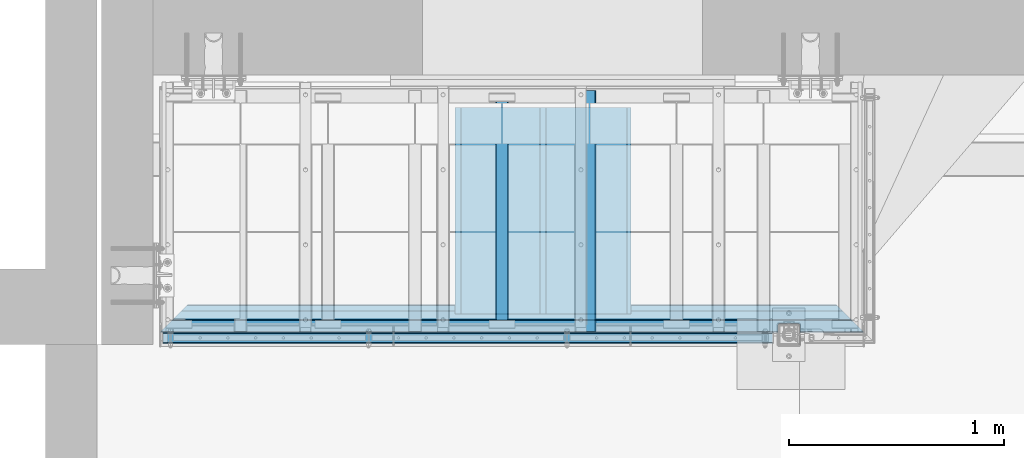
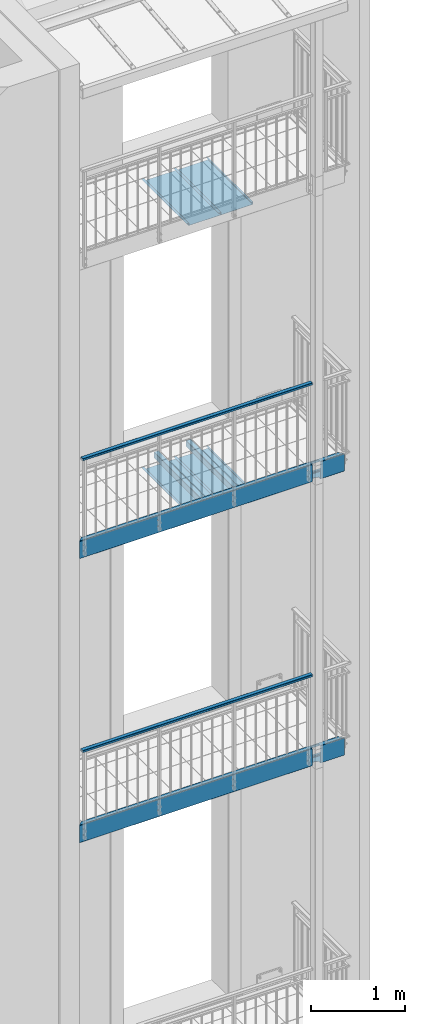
# One storey, part 40 of 162: 10 beams, 32 openings.
"""IFC2X3 building model written with IfcOpenShell, lengths in millimetres."""

from ifc_helpers import new_model, entity, si_unit, converted_unit, point, frame, frame_2d, origin, origin_with_axes, origin_2d, place, context, project, spatial, polyline, circle_curve, line_curve, trimmed, segment, composite_curve, hollow_rectangle, circle, outline, extrude, clip, halfspace, material, element, save


model = new_model("IFC2X3")

# Units and contexts
model_context = context("Model", 3, precision=1e-09, world=origin_with_axes())
ifc_project = project(units=[si_unit("LENGTHUNIT", "METRE", prefix="MILLI"), si_unit("AREAUNIT", "SQUARE_METRE"), si_unit("VOLUMEUNIT", "CUBIC_METRE"), converted_unit("PLANEANGLEUNIT", "DEGREE", entity("IfcPlaneAngleMeasure", 0.01745329), si_unit("PLANEANGLEUNIT", "RADIAN"), dimensions=[0, 0, 0, 0, 0, 0, 0])], contexts=[model_context])

# Site, building, storey
site_placement = place(None, origin_with_axes())
site = spatial("IfcSite", under=ifc_project, at=site_placement, Name="Hermannstra?e 1a, 60318 Frankfurt", CompositionType="ELEMENT")
building_placement = place(site_placement, origin_with_axes())
building = spatial("IfcBuilding", under=site, at=building_placement, Name="Struktur 1", CompositionType="ELEMENT")
storey_placement = place(building_placement, origin_with_axes())
storey = spatial("IfcBuildingStorey", under=building, at=storey_placement, Name="Default Storey", CompositionType="ELEMENT", Elevation=0.0)

# Beam, openings
ifc_material_1 = material(Name="S355JR")
beam_1_placement = place(None, frame((2176.002127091, 1605.609373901, 7665.0), z_axis=(1.0, 0.0, 0.0), x_axis=(0.0, 1.0, 0.0)))
beam_1 = element("IfcBeam", 1, at=beam_1_placement, inside=storey, material=ifc_material_1, Name="-", ObjectType="-", context=model_context, shape_type="Clipping", body=[
    clip(clip(extrude(outline(composite_curve([segment(trimmed(circle_curve(frame_2d((57.999999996, -107.999999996), x_axis=(1.0, 0.0)), 7.000000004), [point((58.0, -115.0))], [point((65.0, -108.0))], True, "CARTESIAN"), True, "CONTINUOUS"), segment(trimmed(line_curve((65.0, -108.0), (0.0, 1.0), 31.0), [point((65.0, -108.0))], [point((65.0, -77.0))], True, "CARTESIAN"), True, "CONTINUOUS"), segment(trimmed(circle_curve(frame_2d((57.999999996, -77.000000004), x_axis=(1.0, 0.0)), 7.000000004), [point((65.0, -77.0))], [point((58.0, -70.0))], True, "CARTESIAN"), True, "CONTINUOUS"), segment(trimmed(line_curve((58.0, -70.0), (-1.0, 0.0), 23.0), [point((58.0, -70.0))], [point((35.0, -70.0))], True, "CARTESIAN"), True, "CONTINUOUS"), segment(trimmed(line_curve((35.0, -70.0), (0.0, -1.0), 4.0), [point((35.0, -70.0))], [point((35.0, -74.0))], True, "CARTESIAN"), True, "CONTINUOUS"), segment(trimmed(line_curve((35.0, -74.0), (1.0, 0.0), 23.0), [point((35.0, -74.0))], [point((58.0, -74.0))], True, "CARTESIAN"), True, "CONTINUOUS"), segment(trimmed(circle_curve(frame_2d((57.999999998, -77.000000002), x_axis=(-1.0, 0.0)), 3.000000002), [point((58.0, -74.0))], [point((61.0, -77.0))], False, "CARTESIAN"), True, "CONTINUOUS"), segment(trimmed(line_curve((61.0, -77.0), (0.0, -1.0), 31.0), [point((61.0, -77.0))], [point((61.0, -108.0))], True, "CARTESIAN"), True, "CONTINUOUS"), segment(trimmed(circle_curve(frame_2d((57.999999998, -107.999999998), x_axis=(-1.0, 0.0)), 3.000000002), [point((61.0, -108.0))], [point((58.0, -111.0))], False, "CARTESIAN"), True, "CONTINUOUS"), segment(trimmed(line_curve((58.0, -111.0), (-1.0, 0.0), 116.0), [point((58.0, -111.0))], [point((-58.0, -111.0))], True, "CARTESIAN"), True, "CONTINUOUS"), segment(trimmed(circle_curve(frame_2d((-57.999999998, -107.999999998), x_axis=(-1.0, 0.0)), 3.000000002), [point((-58.0, -111.0))], [point((-61.0, -108.0))], False, "CARTESIAN"), True, "CONTINUOUS"), segment(trimmed(line_curve((-61.0, -108.0), (0.0, 1.0), 216.0), [point((-61.0, -108.0))], [point((-61.0, 108.0))], True, "CARTESIAN"), True, "CONTINUOUS"), segment(trimmed(circle_curve(frame_2d((-57.999999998, 107.999999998), x_axis=(-1.0, 0.0)), 3.000000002), [point((-61.0, 108.0))], [point((-58.0, 111.0))], False, "CARTESIAN"), True, "CONTINUOUS"), segment(trimmed(line_curve((-58.0, 111.0), (1.0, 0.0), 46.0), [point((-58.0, 111.0))], [point((-12.0, 111.0))], True, "CARTESIAN"), True, "CONTINUOUS"), segment(trimmed(circle_curve(frame_2d((-12.000000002, 107.999999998), x_axis=(-1.0, 0.0)), 3.000000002), [point((-12.0, 111.0))], [point((-9.0, 108.0))], False, "CARTESIAN"), True, "CONTINUOUS"), segment(trimmed(line_curve((-9.0, 108.0), (0.0, -1.0), 33.0), [point((-9.0, 108.0))], [point((-9.0, 75.0))], True, "CARTESIAN"), True, "CONTINUOUS"), segment(trimmed(line_curve((-9.0, 75.0), (1.0, 0.0), 4.0), [point((-9.0, 75.0))], [point((-5.0, 75.0))], True, "CARTESIAN"), True, "CONTINUOUS"), segment(trimmed(line_curve((-5.0, 75.0), (0.0, 1.0), 33.0), [point((-5.0, 75.0))], [point((-5.0, 108.0))], True, "CARTESIAN"), True, "CONTINUOUS"), segment(trimmed(circle_curve(frame_2d((-12.000000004, 107.999999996), x_axis=(1.0, 0.0)), 7.000000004), [point((-5.0, 108.0))], [point((-12.0, 115.0))], True, "CARTESIAN"), True, "CONTINUOUS"), segment(trimmed(line_curve((-12.0, 115.0), (-1.0, 0.0), 46.0), [point((-12.0, 115.0))], [point((-58.0, 115.0))], True, "CARTESIAN"), True, "CONTINUOUS"), segment(trimmed(circle_curve(frame_2d((-57.999999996, 107.999999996), x_axis=(1.0, 0.0)), 7.000000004), [point((-58.0, 115.0))], [point((-65.0, 108.0))], True, "CARTESIAN"), True, "CONTINUOUS"), segment(trimmed(line_curve((-65.0, 108.0), (0.0, -1.0), 216.0), [point((-65.0, 108.0))], [point((-65.0, -108.0))], True, "CARTESIAN"), True, "CONTINUOUS"), segment(trimmed(circle_curve(frame_2d((-57.999999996, -107.999999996), x_axis=(1.0, 0.0)), 7.000000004), [point((-65.0, -108.0))], [point((-58.0, -115.0))], True, "CARTESIAN"), True, "CONTINUOUS"), segment(trimmed(line_curve((-58.0, -115.0), (1.0, 0.0), 116.0), [point((-58.0, -115.0))], [point((58.0, -115.0))], True, "CARTESIAN"), True, "CONTINUOUS")], self_intersect=False)), origin(), (0.0, 0.0, 1.0), 4024.614475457), halfspace(frame((-2111.960076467, -7665.0, -1669.651424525), z_axis=(-0.707106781, 0.0, 0.707106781), x_axis=(0.707106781, 0.0, 0.707106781)), True)), halfspace(frame((2076.349288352, -7665.0, 1505.956535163), z_axis=(-0.707106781, 0.0, -0.707106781), x_axis=(-0.707106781, 0.0, 0.707106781)), True)),
])
opening_1_placement = place(beam_1_placement, frame((-75.214581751, 215.1, 3643.306237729), z_axis=(0.0, 1.0, 0.0), x_axis=(0.0, 0.0, 1.0)))
element("IfcOpeningElement", 2, at=opening_1_placement, cuts=beam_1, ObjectType="Opening", context=model_context, shape_type="SweptSolid", body=[
    extrude(outline(polyline([(0.0, 0.0), (13.514993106, 0.0), (13.514993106, 17.024041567), (0.0, 17.024041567), (0.0, 0.0)])), origin(), (0.0, 0.0, -1.0), 430.2),
])
opening_2_placement = place(beam_1_placement, frame((-119.001, 215.1, 3246.306237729), z_axis=(0.0, 1.0, 0.0), x_axis=(-0.707106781, 0.0, 0.707106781)))
element("IfcOpeningElement", 3, at=opening_2_placement, cuts=beam_1, ObjectType="Opening", context=model_context, shape_type="SweptSolid", body=[
    extrude(outline(composite_curve([segment(trimmed(circle_curve(frame_2d((4.949747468, 4.949747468), x_axis=(1.0, 0.0)), 7.0), [point((0.0, 0.0))], [point((9.899494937, 0.0))], True, "CARTESIAN"), True, "CONTINUOUS"), segment(trimmed(line_curve((9.899494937, 0.0), (0.707106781, 0.707106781), 88.0), [point((9.899494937, 0.0))], [point((72.124891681, 62.225396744))], True, "CARTESIAN"), True, "CONTINUOUS"), segment(trimmed(circle_curve(frame_2d((67.175144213, 67.175144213), x_axis=(1.0, 0.0)), 7.0), [point((72.124891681, 62.225396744))], [point((72.124891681, 72.124891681))], True, "CARTESIAN"), True, "CONTINUOUS"), segment(trimmed(line_curve((72.124891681, 72.124891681), (-0.707106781, 0.707106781), 88.002), [point((72.124891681, 72.124891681))], [point((9.898080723, 134.351702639))], True, "CARTESIAN"), True, "CONTINUOUS"), segment(trimmed(circle_curve(frame_2d((4.948333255, 129.401955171), x_axis=(1.0, 0.0)), 7.0), [point((9.898080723, 134.351702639))], [point((-0.001414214, 134.351702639))], True, "CARTESIAN"), True, "CONTINUOUS"), segment(trimmed(line_curve((-0.001414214, 134.351702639), (-0.707106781, -0.707106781), 88.0), [point((-0.001414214, 134.351702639))], [point((-62.226810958, 72.126305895))], True, "CARTESIAN"), True, "CONTINUOUS"), segment(trimmed(circle_curve(frame_2d((-57.27706349, 67.176558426), x_axis=(1.0, 0.0)), 7.0), [point((-62.226810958, 72.126305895))], [point((-62.226810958, 62.226810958))], True, "CARTESIAN"), True, "CONTINUOUS"), segment(trimmed(line_curve((-62.226810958, 62.226810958), (0.707106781, -0.707106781), 88.002), [point((-62.226810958, 62.226810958))], [point((0.0, 0.0))], True, "CARTESIAN"), True, "CONTINUOUS")], self_intersect=False)), origin(), (0.0, 0.0, -1.0), 430.2),
])
opening_3_placement = place(beam_1_placement, frame((-66.702560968, 215.1, 374.550741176), z_axis=(0.0, -1.0, 0.0), x_axis=(0.0, 0.0, -1.0)))
element("IfcOpeningElement", 4, at=opening_3_placement, cuts=beam_1, ObjectType="Opening", context=model_context, shape_type="SweptSolid", body=[
    extrude(outline(polyline([(-6.757496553, -8.512020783), (6.757496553, -8.512020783), (6.757496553, 8.512020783), (-6.757496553, 8.512020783), (-6.757496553, -8.512020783)])), origin(), (0.0, 0.0, 1.0), 430.2),
])
opening_4_placement = place(beam_1_placement, frame((-13.0, -98.5, 3297.305553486), z_axis=(-1.0, 0.0, 0.0), x_axis=(0.0, 0.0, 1.0)))
element("IfcOpeningElement", 5, at=opening_4_placement, cuts=beam_1, ObjectType="Opening", context=model_context, shape_type="SweptSolid", body=[
    extrude(outline(composite_curve([segment(trimmed(circle_curve(frame_2d((-20.001, -29.501), x_axis=(1.0, 0.0)), 6.0), [point((-26.001, -29.501))], [point((-20.001, -35.501))], True, "CARTESIAN"), True, "CONTINUOUS"), segment(trimmed(line_curve((-20.001, -35.501), (1.0, 0.0), 40.002), [point((-20.001, -35.501))], [point((20.001, -35.501))], True, "CARTESIAN"), True, "CONTINUOUS"), segment(trimmed(circle_curve(frame_2d((20.001, -29.501), x_axis=(1.0, 0.0)), 6.0), [point((20.001, -35.501))], [point((26.001, -29.501))], True, "CARTESIAN"), True, "CONTINUOUS"), segment(trimmed(line_curve((26.001, -29.501), (0.0, 1.0), 59.002), [point((26.001, -29.501))], [point((26.001, 29.501))], True, "CARTESIAN"), True, "CONTINUOUS"), segment(trimmed(circle_curve(frame_2d((20.001, 29.501), x_axis=(1.0, 0.0)), 6.0), [point((26.001, 29.501))], [point((20.001, 35.501))], True, "CARTESIAN"), True, "CONTINUOUS"), segment(trimmed(line_curve((20.001, 35.501), (-1.0, 0.0), 40.002), [point((20.001, 35.501))], [point((-20.001, 35.501))], True, "CARTESIAN"), True, "CONTINUOUS"), segment(trimmed(circle_curve(frame_2d((-20.001, 29.501), x_axis=(1.0, 0.0)), 6.0), [point((-20.001, 35.501))], [point((-26.001, 29.501))], True, "CARTESIAN"), True, "CONTINUOUS"), segment(trimmed(line_curve((-26.001, 29.501), (0.0, -1.0), 59.002), [point((-26.001, 29.501))], [point((-26.001, -29.501))], True, "CARTESIAN"), True, "CONTINUOUS")], self_intersect=False)), origin(), (0.0, 0.0, 1.0), 152.1),
])
opening_5_placement = place(beam_1_placement, frame((-65.5, 55.0, 420.306237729), z_axis=(-1.0, 0.0, 0.0), x_axis=(0.0, -1.0, 0.0)))
element("IfcOpeningElement", 6, at=opening_5_placement, cuts=beam_1, ObjectType="Opening", context=model_context, shape_type="SweptSolid", body=[
    extrude(circle(Radius=7.001, at=frame_2d((0.0, 7.001), x_axis=(1.0, 0.0))), origin(), (0.0, 0.0, -1.0), 5.0),
])
opening_6_placement = place(beam_1_placement, frame((-65.5, -25.0, 420.306237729), z_axis=(-1.0, 0.0, 0.0), x_axis=(0.0, -1.0, 0.0)))
element("IfcOpeningElement", 7, at=opening_6_placement, cuts=beam_1, ObjectType="Opening", context=model_context, shape_type="SweptSolid", body=[
    extrude(circle(Radius=7.001, at=frame_2d((0.0, 7.001), x_axis=(1.0, 0.0))), origin(), (0.0, 0.0, -1.0), 5.0),
])
opening_7_placement = place(beam_1_placement, frame((-65.5, 55.0, 3180.306237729), z_axis=(-1.0, 0.0, 0.0), x_axis=(0.0, -1.0, 0.0)))
element("IfcOpeningElement", 8, at=opening_7_placement, cuts=beam_1, ObjectType="Opening", context=model_context, shape_type="SweptSolid", body=[
    extrude(circle(Radius=7.001, at=frame_2d((0.0, 7.001), x_axis=(1.0, 0.0))), origin(), (0.0, 0.0, -1.0), 5.0),
])
opening_8_placement = place(beam_1_placement, frame((-65.5, -25.0, 3180.306237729), z_axis=(-1.0, 0.0, 0.0), x_axis=(0.0, -1.0, 0.0)))
element("IfcOpeningElement", 9, at=opening_8_placement, cuts=beam_1, ObjectType="Opening", context=model_context, shape_type="SweptSolid", body=[
    extrude(circle(Radius=7.001, at=frame_2d((0.0, 7.001), x_axis=(1.0, 0.0))), origin(), (0.0, 0.0, -1.0), 5.0),
])
opening_9_placement = place(beam_1_placement, frame((-65.5, 55.0, 2260.306237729), z_axis=(-1.0, 0.0, 0.0), x_axis=(0.0, -1.0, 0.0)))
element("IfcOpeningElement", 10, at=opening_9_placement, cuts=beam_1, ObjectType="Opening", context=model_context, shape_type="SweptSolid", body=[
    extrude(circle(Radius=7.001, at=frame_2d((0.0, 7.001), x_axis=(1.0, 0.0))), origin(), (0.0, 0.0, -1.0), 5.0),
])
opening_10_placement = place(beam_1_placement, frame((-65.5, -25.0, 2260.306237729), z_axis=(-1.0, 0.0, 0.0), x_axis=(0.0, -1.0, 0.0)))
element("IfcOpeningElement", 11, at=opening_10_placement, cuts=beam_1, ObjectType="Opening", context=model_context, shape_type="SweptSolid", body=[
    extrude(circle(Radius=7.001, at=frame_2d((0.0, 7.001), x_axis=(1.0, 0.0))), origin(), (0.0, 0.0, -1.0), 5.0),
])
opening_11_placement = place(beam_1_placement, frame((-65.5, 55.0, 1340.306237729), z_axis=(-1.0, 0.0, 0.0), x_axis=(0.0, -1.0, 0.0)))
element("IfcOpeningElement", 12, at=opening_11_placement, cuts=beam_1, ObjectType="Opening", context=model_context, shape_type="SweptSolid", body=[
    extrude(circle(Radius=7.001, at=frame_2d((0.0, 7.001), x_axis=(1.0, 0.0))), origin(), (0.0, 0.0, -1.0), 5.0),
])
opening_12_placement = place(beam_1_placement, frame((-65.5, -25.0, 1340.306237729), z_axis=(-1.0, 0.0, 0.0), x_axis=(0.0, -1.0, 0.0)))
element("IfcOpeningElement", 13, at=opening_12_placement, cuts=beam_1, ObjectType="Opening", context=model_context, shape_type="SweptSolid", body=[
    extrude(circle(Radius=7.001, at=frame_2d((0.0, 7.001), x_axis=(1.0, 0.0))), origin(), (0.0, 0.0, -1.0), 5.0),
])

ifc_material_2 = material(Name="S235JR")
beam_2_placement = place(None, frame((2568.31036482, 1515.609373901, 8765.0), z_axis=(-1.0, 0.0, 0.0), x_axis=(0.0, 0.0, -1.0)))
beam_2 = element("IfcBeam", 14, at=beam_2_placement, inside=storey, material=ifc_material_2, Name="-", ObjectType="-", context=model_context, shape_type="SweptSolid", body=[
    extrude(hollow_rectangle(XDim=30.0, YDim=50.0, WallThickness=3.0, InnerFilletRadius=3.0, OuterFilletRadius=6.0, at=origin_2d()), origin(), (0.0, 0.0, -1.0), 2829.999),
])
opening_13_placement = place(beam_2_placement, frame((11.5, 0.0, -29.998), z_axis=(-1.0, 0.0, 0.0), x_axis=(0.0, -1.0, 0.0)))
element("IfcOpeningElement", 15, at=opening_13_placement, cuts=beam_2, ObjectType="Opening", context=model_context, shape_type="SweptSolid", body=[
    extrude(circle(Radius=5.001, at=frame_2d((0.0, -5.001), x_axis=(1.0, 0.0))), origin(), (0.0, 0.0, -1.0), 4.0),
])
opening_14_placement = place(beam_2_placement, frame((11.5, 0.0, -949.998), z_axis=(-1.0, 0.0, 0.0), x_axis=(0.0, -1.0, 0.0)))
element("IfcOpeningElement", 16, at=opening_14_placement, cuts=beam_2, ObjectType="Opening", context=model_context, shape_type="SweptSolid", body=[
    extrude(circle(Radius=5.001, at=frame_2d((0.0, -5.001), x_axis=(1.0, 0.0))), origin(), (0.0, 0.0, -1.0), 4.0),
])
opening_15_placement = place(beam_2_placement, frame((11.5, 0.0, -1869.998), z_axis=(-1.0, 0.0, 0.0), x_axis=(0.0, -1.0, 0.0)))
element("IfcOpeningElement", 17, at=opening_15_placement, cuts=beam_2, ObjectType="Opening", context=model_context, shape_type="SweptSolid", body=[
    extrude(circle(Radius=5.001, at=frame_2d((0.0, -5.001), x_axis=(1.0, 0.0))), origin(), (0.0, 0.0, -1.0), 4.0),
])
opening_16_placement = place(beam_2_placement, frame((11.5, 0.0, -2789.998), z_axis=(-1.0, 0.0, 0.0), x_axis=(0.0, -1.0, 0.0)))
element("IfcOpeningElement", 18, at=opening_16_placement, cuts=beam_2, ObjectType="Opening", context=model_context, shape_type="SweptSolid", body=[
    extrude(circle(Radius=5.001, at=frame_2d((0.0, -5.001), x_axis=(1.0, 0.0))), origin(), (0.0, 0.0, -1.0), 4.0),
])

beam_3_placement = place(None, frame((2568.31036482, 1515.609373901, 12564.999), z_axis=(-1.0, 0.0, 0.0), x_axis=(0.0, 0.0, -1.0)))
beam_3 = element("IfcBeam", 19, at=beam_3_placement, inside=storey, material=ifc_material_2, Name="-", ObjectType="-", context=model_context, shape_type="SweptSolid", body=[
    extrude(hollow_rectangle(XDim=30.0, YDim=50.0, WallThickness=3.0, InnerFilletRadius=3.0, OuterFilletRadius=6.0, at=origin_2d()), origin(), (0.0, 0.0, -1.0), 2829.999),
])
opening_17_placement = place(beam_3_placement, frame((11.5, 0.0, -29.998), z_axis=(-1.0, 0.0, 0.0), x_axis=(0.0, -1.0, 0.0)))
element("IfcOpeningElement", 20, at=opening_17_placement, cuts=beam_3, ObjectType="Opening", context=model_context, shape_type="SweptSolid", body=[
    extrude(circle(Radius=5.001, at=frame_2d((0.0, -5.001), x_axis=(1.0, 0.0))), origin(), (0.0, 0.0, -1.0), 4.0),
])
opening_18_placement = place(beam_3_placement, frame((11.5, 0.0, -949.998), z_axis=(-1.0, 0.0, 0.0), x_axis=(0.0, -1.0, 0.0)))
element("IfcOpeningElement", 21, at=opening_18_placement, cuts=beam_3, ObjectType="Opening", context=model_context, shape_type="SweptSolid", body=[
    extrude(circle(Radius=5.001, at=frame_2d((0.0, -5.001), x_axis=(1.0, 0.0))), origin(), (0.0, 0.0, -1.0), 4.0),
])
opening_19_placement = place(beam_3_placement, frame((11.5, 0.0, -1869.998), z_axis=(-1.0, 0.0, 0.0), x_axis=(0.0, -1.0, 0.0)))
element("IfcOpeningElement", 22, at=opening_19_placement, cuts=beam_3, ObjectType="Opening", context=model_context, shape_type="SweptSolid", body=[
    extrude(circle(Radius=5.001, at=frame_2d((0.0, -5.001), x_axis=(1.0, 0.0))), origin(), (0.0, 0.0, -1.0), 4.0),
])
opening_20_placement = place(beam_3_placement, frame((11.5, 0.0, -2789.998), z_axis=(-1.0, 0.0, 0.0), x_axis=(0.0, -1.0, 0.0)))
element("IfcOpeningElement", 23, at=opening_20_placement, cuts=beam_3, ObjectType="Opening", context=model_context, shape_type="SweptSolid", body=[
    extrude(circle(Radius=5.001, at=frame_2d((0.0, -5.001), x_axis=(1.0, 0.0))), origin(), (0.0, 0.0, -1.0), 4.0),
])

beam_4_placement = place(None, frame((2176.002127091, 1605.609373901, 11364.999), z_axis=(1.0, 0.0, 0.0), x_axis=(0.0, 1.0, 0.0)))
beam_4 = element("IfcBeam", 24, at=beam_4_placement, inside=storey, material=ifc_material_1, Name="-", ObjectType="-", context=model_context, shape_type="Clipping", body=[
    clip(clip(extrude(outline(composite_curve([segment(trimmed(circle_curve(frame_2d((57.999999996, -107.999999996), x_axis=(1.0, 0.0)), 7.000000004), [point((58.0, -115.0))], [point((65.0, -108.0))], True, "CARTESIAN"), True, "CONTINUOUS"), segment(trimmed(line_curve((65.0, -108.0), (0.0, 1.0), 31.0), [point((65.0, -108.0))], [point((65.0, -77.0))], True, "CARTESIAN"), True, "CONTINUOUS"), segment(trimmed(circle_curve(frame_2d((57.999999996, -77.000000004), x_axis=(1.0, 0.0)), 7.000000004), [point((65.0, -77.0))], [point((58.0, -70.0))], True, "CARTESIAN"), True, "CONTINUOUS"), segment(trimmed(line_curve((58.0, -70.0), (-1.0, 0.0), 23.0), [point((58.0, -70.0))], [point((35.0, -70.0))], True, "CARTESIAN"), True, "CONTINUOUS"), segment(trimmed(line_curve((35.0, -70.0), (0.0, -1.0), 4.0), [point((35.0, -70.0))], [point((35.0, -74.0))], True, "CARTESIAN"), True, "CONTINUOUS"), segment(trimmed(line_curve((35.0, -74.0), (1.0, 0.0), 23.0), [point((35.0, -74.0))], [point((58.0, -74.0))], True, "CARTESIAN"), True, "CONTINUOUS"), segment(trimmed(circle_curve(frame_2d((57.999999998, -77.000000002), x_axis=(-1.0, 0.0)), 3.000000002), [point((58.0, -74.0))], [point((61.0, -77.0))], False, "CARTESIAN"), True, "CONTINUOUS"), segment(trimmed(line_curve((61.0, -77.0), (0.0, -1.0), 31.0), [point((61.0, -77.0))], [point((61.0, -108.0))], True, "CARTESIAN"), True, "CONTINUOUS"), segment(trimmed(circle_curve(frame_2d((57.999999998, -107.999999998), x_axis=(-1.0, 0.0)), 3.000000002), [point((61.0, -108.0))], [point((58.0, -111.0))], False, "CARTESIAN"), True, "CONTINUOUS"), segment(trimmed(line_curve((58.0, -111.0), (-1.0, 0.0), 116.0), [point((58.0, -111.0))], [point((-58.0, -111.0))], True, "CARTESIAN"), True, "CONTINUOUS"), segment(trimmed(circle_curve(frame_2d((-57.999999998, -107.999999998), x_axis=(-1.0, 0.0)), 3.000000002), [point((-58.0, -111.0))], [point((-61.0, -108.0))], False, "CARTESIAN"), True, "CONTINUOUS"), segment(trimmed(line_curve((-61.0, -108.0), (0.0, 1.0), 216.0), [point((-61.0, -108.0))], [point((-61.0, 108.0))], True, "CARTESIAN"), True, "CONTINUOUS"), segment(trimmed(circle_curve(frame_2d((-57.999999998, 107.999999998), x_axis=(-1.0, 0.0)), 3.000000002), [point((-61.0, 108.0))], [point((-58.0, 111.0))], False, "CARTESIAN"), True, "CONTINUOUS"), segment(trimmed(line_curve((-58.0, 111.0), (1.0, 0.0), 46.0), [point((-58.0, 111.0))], [point((-12.0, 111.0))], True, "CARTESIAN"), True, "CONTINUOUS"), segment(trimmed(circle_curve(frame_2d((-12.000000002, 107.999999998), x_axis=(-1.0, 0.0)), 3.000000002), [point((-12.0, 111.0))], [point((-9.0, 108.0))], False, "CARTESIAN"), True, "CONTINUOUS"), segment(trimmed(line_curve((-9.0, 108.0), (0.0, -1.0), 33.0), [point((-9.0, 108.0))], [point((-9.0, 75.0))], True, "CARTESIAN"), True, "CONTINUOUS"), segment(trimmed(line_curve((-9.0, 75.0), (1.0, 0.0), 4.0), [point((-9.0, 75.0))], [point((-5.0, 75.0))], True, "CARTESIAN"), True, "CONTINUOUS"), segment(trimmed(line_curve((-5.0, 75.0), (0.0, 1.0), 33.0), [point((-5.0, 75.0))], [point((-5.0, 108.0))], True, "CARTESIAN"), True, "CONTINUOUS"), segment(trimmed(circle_curve(frame_2d((-12.000000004, 107.999999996), x_axis=(1.0, 0.0)), 7.000000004), [point((-5.0, 108.0))], [point((-12.0, 115.0))], True, "CARTESIAN"), True, "CONTINUOUS"), segment(trimmed(line_curve((-12.0, 115.0), (-1.0, 0.0), 46.0), [point((-12.0, 115.0))], [point((-58.0, 115.0))], True, "CARTESIAN"), True, "CONTINUOUS"), segment(trimmed(circle_curve(frame_2d((-57.999999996, 107.999999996), x_axis=(1.0, 0.0)), 7.000000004), [point((-58.0, 115.0))], [point((-65.0, 108.0))], True, "CARTESIAN"), True, "CONTINUOUS"), segment(trimmed(line_curve((-65.0, 108.0), (0.0, -1.0), 216.0), [point((-65.0, 108.0))], [point((-65.0, -108.0))], True, "CARTESIAN"), True, "CONTINUOUS"), segment(trimmed(circle_curve(frame_2d((-57.999999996, -107.999999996), x_axis=(1.0, 0.0)), 7.000000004), [point((-65.0, -108.0))], [point((-58.0, -115.0))], True, "CARTESIAN"), True, "CONTINUOUS"), segment(trimmed(line_curve((-58.0, -115.0), (1.0, 0.0), 116.0), [point((-58.0, -115.0))], [point((58.0, -115.0))], True, "CARTESIAN"), True, "CONTINUOUS")], self_intersect=False)), origin(), (0.0, 0.0, 1.0), 4024.614475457), halfspace(frame((-2111.960076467, -11364.999, -1669.651424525), z_axis=(-0.707106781, 0.0, 0.707106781), x_axis=(0.707106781, 0.0, 0.707106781)), True)), halfspace(frame((2076.349288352, -11364.999, 1505.956535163), z_axis=(-0.707106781, 0.0, -0.707106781), x_axis=(-0.707106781, 0.0, 0.707106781)), True)),
])
opening_21_placement = place(beam_4_placement, frame((-75.214581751, 215.1, 3643.306237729), z_axis=(0.0, 1.0, 0.0), x_axis=(0.0, 0.0, 1.0)))
element("IfcOpeningElement", 25, at=opening_21_placement, cuts=beam_4, ObjectType="Opening", context=model_context, shape_type="SweptSolid", body=[
    extrude(outline(polyline([(0.0, 0.0), (13.514993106, 0.0), (13.514993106, 17.024041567), (0.0, 17.024041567), (0.0, 0.0)])), origin(), (0.0, 0.0, -1.0), 430.2),
])
opening_22_placement = place(beam_4_placement, frame((-119.001, 215.1, 3246.306237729), z_axis=(0.0, 1.0, 0.0), x_axis=(-0.707106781, 0.0, 0.707106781)))
element("IfcOpeningElement", 26, at=opening_22_placement, cuts=beam_4, ObjectType="Opening", context=model_context, shape_type="SweptSolid", body=[
    extrude(outline(composite_curve([segment(trimmed(circle_curve(frame_2d((4.949747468, 4.949747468), x_axis=(1.0, 0.0)), 7.0), [point((0.0, 0.0))], [point((9.899494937, 0.0))], True, "CARTESIAN"), True, "CONTINUOUS"), segment(trimmed(line_curve((9.899494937, 0.0), (0.707106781, 0.707106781), 88.0), [point((9.899494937, 0.0))], [point((72.124891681, 62.225396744))], True, "CARTESIAN"), True, "CONTINUOUS"), segment(trimmed(circle_curve(frame_2d((67.175144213, 67.175144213), x_axis=(1.0, 0.0)), 7.0), [point((72.124891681, 62.225396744))], [point((72.124891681, 72.124891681))], True, "CARTESIAN"), True, "CONTINUOUS"), segment(trimmed(line_curve((72.124891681, 72.124891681), (-0.707106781, 0.707106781), 88.002), [point((72.124891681, 72.124891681))], [point((9.898080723, 134.351702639))], True, "CARTESIAN"), True, "CONTINUOUS"), segment(trimmed(circle_curve(frame_2d((4.948333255, 129.401955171), x_axis=(1.0, 0.0)), 7.0), [point((9.898080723, 134.351702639))], [point((-0.001414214, 134.351702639))], True, "CARTESIAN"), True, "CONTINUOUS"), segment(trimmed(line_curve((-0.001414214, 134.351702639), (-0.707106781, -0.707106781), 88.0), [point((-0.001414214, 134.351702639))], [point((-62.226810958, 72.126305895))], True, "CARTESIAN"), True, "CONTINUOUS"), segment(trimmed(circle_curve(frame_2d((-57.27706349, 67.176558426), x_axis=(1.0, 0.0)), 7.0), [point((-62.226810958, 72.126305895))], [point((-62.226810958, 62.226810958))], True, "CARTESIAN"), True, "CONTINUOUS"), segment(trimmed(line_curve((-62.226810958, 62.226810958), (0.707106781, -0.707106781), 88.002), [point((-62.226810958, 62.226810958))], [point((0.0, 0.0))], True, "CARTESIAN"), True, "CONTINUOUS")], self_intersect=False)), origin(), (0.0, 0.0, -1.0), 430.2),
])
opening_23_placement = place(beam_4_placement, frame((-66.702560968, 215.1, 374.550741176), z_axis=(0.0, -1.0, 0.0), x_axis=(0.0, 0.0, -1.0)))
element("IfcOpeningElement", 27, at=opening_23_placement, cuts=beam_4, ObjectType="Opening", context=model_context, shape_type="SweptSolid", body=[
    extrude(outline(polyline([(-6.757496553, -8.512020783), (6.757496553, -8.512020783), (6.757496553, 8.512020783), (-6.757496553, 8.512020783), (-6.757496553, -8.512020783)])), origin(), (0.0, 0.0, 1.0), 430.2),
])
opening_24_placement = place(beam_4_placement, frame((-13.0, -98.5, 3297.305553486), z_axis=(-1.0, 0.0, 0.0), x_axis=(0.0, 0.0, 1.0)))
element("IfcOpeningElement", 28, at=opening_24_placement, cuts=beam_4, ObjectType="Opening", context=model_context, shape_type="SweptSolid", body=[
    extrude(outline(composite_curve([segment(trimmed(circle_curve(frame_2d((-20.001, -29.501), x_axis=(1.0, 0.0)), 6.0), [point((-26.001, -29.501))], [point((-20.001, -35.501))], True, "CARTESIAN"), True, "CONTINUOUS"), segment(trimmed(line_curve((-20.001, -35.501), (1.0, 0.0), 40.002), [point((-20.001, -35.501))], [point((20.001, -35.501))], True, "CARTESIAN"), True, "CONTINUOUS"), segment(trimmed(circle_curve(frame_2d((20.001, -29.501), x_axis=(1.0, 0.0)), 6.0), [point((20.001, -35.501))], [point((26.001, -29.501))], True, "CARTESIAN"), True, "CONTINUOUS"), segment(trimmed(line_curve((26.001, -29.501), (0.0, 1.0), 59.002), [point((26.001, -29.501))], [point((26.001, 29.501))], True, "CARTESIAN"), True, "CONTINUOUS"), segment(trimmed(circle_curve(frame_2d((20.001, 29.501), x_axis=(1.0, 0.0)), 6.0), [point((26.001, 29.501))], [point((20.001, 35.501))], True, "CARTESIAN"), True, "CONTINUOUS"), segment(trimmed(line_curve((20.001, 35.501), (-1.0, 0.0), 40.002), [point((20.001, 35.501))], [point((-20.001, 35.501))], True, "CARTESIAN"), True, "CONTINUOUS"), segment(trimmed(circle_curve(frame_2d((-20.001, 29.501), x_axis=(1.0, 0.0)), 6.0), [point((-20.001, 35.501))], [point((-26.001, 29.501))], True, "CARTESIAN"), True, "CONTINUOUS"), segment(trimmed(line_curve((-26.001, 29.501), (0.0, -1.0), 59.002), [point((-26.001, 29.501))], [point((-26.001, -29.501))], True, "CARTESIAN"), True, "CONTINUOUS")], self_intersect=False)), origin(), (0.0, 0.0, 1.0), 152.1),
])
opening_25_placement = place(beam_4_placement, frame((-65.5, 55.0, 3180.306237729), z_axis=(-1.0, 0.0, 0.0), x_axis=(0.0, -1.0, 0.0)))
element("IfcOpeningElement", 29, at=opening_25_placement, cuts=beam_4, ObjectType="Opening", context=model_context, shape_type="SweptSolid", body=[
    extrude(circle(Radius=7.001, at=frame_2d((0.0, 7.001), x_axis=(1.0, 0.0))), origin(), (0.0, 0.0, -1.0), 5.0),
])
opening_26_placement = place(beam_4_placement, frame((-65.5, -25.0, 3180.306237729), z_axis=(-1.0, 0.0, 0.0), x_axis=(0.0, -1.0, 0.0)))
element("IfcOpeningElement", 30, at=opening_26_placement, cuts=beam_4, ObjectType="Opening", context=model_context, shape_type="SweptSolid", body=[
    extrude(circle(Radius=7.001, at=frame_2d((0.0, 7.001), x_axis=(1.0, 0.0))), origin(), (0.0, 0.0, -1.0), 5.0),
])
opening_27_placement = place(beam_4_placement, frame((-65.5, 55.0, 2260.306237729), z_axis=(-1.0, 0.0, 0.0), x_axis=(0.0, -1.0, 0.0)))
element("IfcOpeningElement", 31, at=opening_27_placement, cuts=beam_4, ObjectType="Opening", context=model_context, shape_type="SweptSolid", body=[
    extrude(circle(Radius=7.001, at=frame_2d((0.0, 7.001), x_axis=(1.0, 0.0))), origin(), (0.0, 0.0, -1.0), 5.0),
])
opening_28_placement = place(beam_4_placement, frame((-65.5, -25.0, 2260.306237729), z_axis=(-1.0, 0.0, 0.0), x_axis=(0.0, -1.0, 0.0)))
element("IfcOpeningElement", 32, at=opening_28_placement, cuts=beam_4, ObjectType="Opening", context=model_context, shape_type="SweptSolid", body=[
    extrude(circle(Radius=7.001, at=frame_2d((0.0, 7.001), x_axis=(1.0, 0.0))), origin(), (0.0, 0.0, -1.0), 5.0),
])
opening_29_placement = place(beam_4_placement, frame((-65.5, 55.0, 1340.306237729), z_axis=(-1.0, 0.0, 0.0), x_axis=(0.0, -1.0, 0.0)))
element("IfcOpeningElement", 33, at=opening_29_placement, cuts=beam_4, ObjectType="Opening", context=model_context, shape_type="SweptSolid", body=[
    extrude(circle(Radius=7.001, at=frame_2d((0.0, 7.001), x_axis=(1.0, 0.0))), origin(), (0.0, 0.0, -1.0), 5.0),
])
opening_30_placement = place(beam_4_placement, frame((-65.5, -25.0, 1340.306237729), z_axis=(-1.0, 0.0, 0.0), x_axis=(0.0, -1.0, 0.0)))
element("IfcOpeningElement", 34, at=opening_30_placement, cuts=beam_4, ObjectType="Opening", context=model_context, shape_type="SweptSolid", body=[
    extrude(circle(Radius=7.001, at=frame_2d((0.0, 7.001), x_axis=(1.0, 0.0))), origin(), (0.0, 0.0, -1.0), 5.0),
])
opening_31_placement = place(beam_4_placement, frame((-65.5, 55.0, 420.306237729), z_axis=(-1.0, 0.0, 0.0), x_axis=(0.0, -1.0, 0.0)))
element("IfcOpeningElement", 35, at=opening_31_placement, cuts=beam_4, ObjectType="Opening", context=model_context, shape_type="SweptSolid", body=[
    extrude(circle(Radius=7.001, at=frame_2d((0.0, 7.001), x_axis=(1.0, 0.0))), origin(), (0.0, 0.0, -1.0), 5.0),
])
opening_32_placement = place(beam_4_placement, frame((-65.5, -25.0, 420.306237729), z_axis=(-1.0, 0.0, 0.0), x_axis=(0.0, -1.0, 0.0)))
element("IfcOpeningElement", 36, at=opening_32_placement, cuts=beam_4, ObjectType="Opening", context=model_context, shape_type="SweptSolid", body=[
    extrude(circle(Radius=7.001, at=frame_2d((0.0, 7.001), x_axis=(1.0, 0.0))), origin(), (0.0, 0.0, -1.0), 5.0),
])

# Beams
beam_5_placement = place(None, frame((4547.05936482, 1546.109373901, 11384.999), z_axis=(0.0, 1.0, 0.0), x_axis=(-1.0, 0.0, 0.0)))
element("IfcBeam", 37, at=beam_5_placement, inside=storey, material=ifc_material_2, Name="-", ObjectType="-", context=model_context, shape_type="SweptSolid", body=[
    extrude(hollow_rectangle(XDim=60.0, YDim=80.0, WallThickness=4.0, InnerFilletRadius=4.0, OuterFilletRadius=8.0, at=origin_2d()), origin(), (0.0, 0.0, 1.0), 1119.0),
])
beam_6_placement = place(None, frame((4142.55936482, 1559.609373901, 11384.999), z_axis=(0.0, 1.0, 0.0), x_axis=(-1.0, 0.0, 0.0)))
element("IfcBeam", 38, at=beam_6_placement, inside=storey, material=ifc_material_2, Name="-", ObjectType="-", context=model_context, shape_type="SweptSolid", body=[
    extrude(hollow_rectangle(XDim=60.0, YDim=80.0, WallThickness=4.0, InnerFilletRadius=4.0, OuterFilletRadius=8.0, at=origin_2d()), origin(), (0.0, 0.0, 1.0), 1092.0),
])
ifc_material_3 = material(Name="Alu")
for number, where, z_axis, x_axis in (
    (39, (4344.80936482, 1625.609373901, 11294.999), (0.0, -1.0, 0.0), (1.0, 0.0, 0.0)),
    (40, (4740.80936482, 1625.609373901, 11294.999), (0.0, -1.0, 0.0), (1.0, 0.0, 0.0)),
    (41, (4344.80936482, 1625.609373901, 15051.999), (0.0, -1.0, 0.0), (1.0, 0.0, 0.0)),
    (42, (4740.80936482, 1625.609373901, 15051.999), (0.0, -1.0, 0.0), (1.0, 0.0, 0.0)),
):
    element("IfcBeam", number, at=place(None, frame(where, z_axis=z_axis, x_axis=x_axis)), inside=storey, material=ifc_material_3, Name="-", ObjectType="-", context=model_context, shape_type="SweptSolid", body=[
        extrude(outline(polyline([(-421.449159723, 31.122617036), (-396.0, 34.699263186), (-396.0, 0.0), (0.0, 0.0), (0.0, 34.0), (-17.824825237, 31.494884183), (-17.546479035, 29.514348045), (-2.0, 31.699263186), (-2.0, 2.0), (-394.0, 2.0), (-394.0, 37.0), (-421.727505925, 33.103153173), (-421.449159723, 31.122617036)])), origin(), (0.0, 0.0, -1.0), 960.0),
    ])

save(model, "model.ifc")
